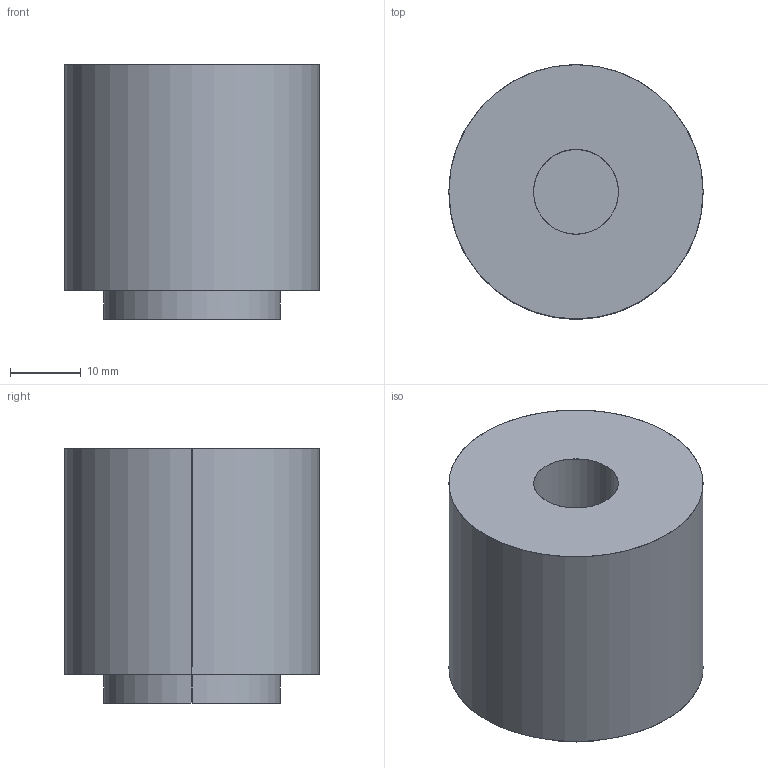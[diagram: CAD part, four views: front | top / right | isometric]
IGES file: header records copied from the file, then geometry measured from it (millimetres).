
Start section: SolidWorks IGES file using analytic representation for surfaces
Global section: file name: X:\11_SW2020-Inv2020\00_全2021-11新製品まで\b\BBU-3636-E\bbu-3636-e.IGS; native system: SolidWorks 2020; preprocessor: SolidWorks 2020; author: ImaoCorp; date: 211025.083420; units: millimetre
Bounding box: 36 x 36 x 36 mm (x, y, z)
Surface area: 6421.4 mm2 (no closed solid volume)
Topology: 0 solids, 0 shells, 10 faces, 280 edges, 280 vertices
Faces by surface type: revolution 6, bspline 4
